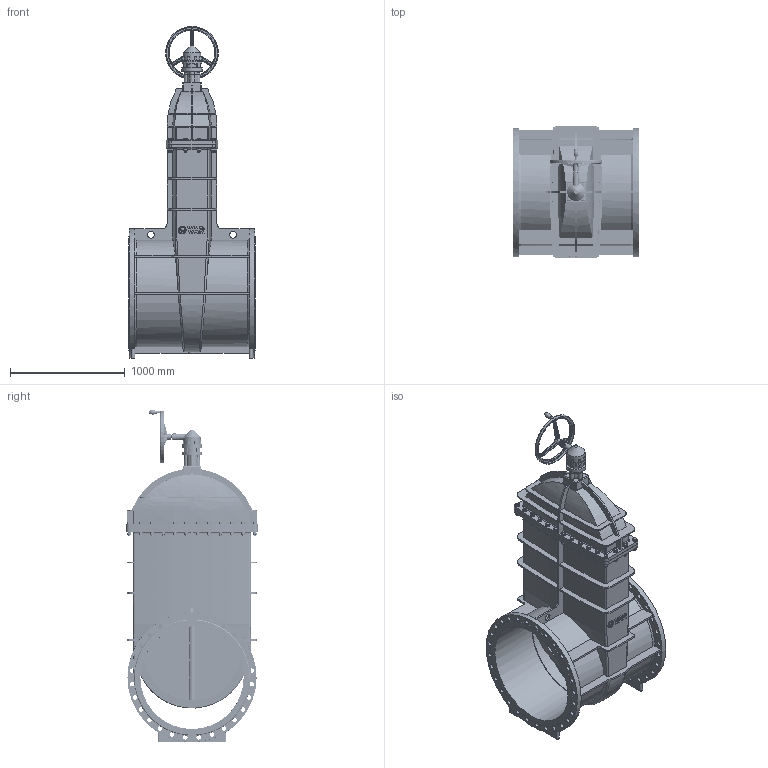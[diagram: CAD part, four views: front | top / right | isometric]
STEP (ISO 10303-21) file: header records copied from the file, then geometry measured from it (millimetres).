
FILE_DESCRIPTION(('STEP AP242'), '1');
FILE_NAME('青溻桄赅', '', ('UNSPECIFIED'), ('UNSPECIFIED'), 'C3D Converter', 'C3D Toolkit', '');
FILE_SCHEMA(('AP242_MANAGED_MODEL_BASED_3D_ENGINEERING_MIM_LF { 1 0 10303 442 1 1 4 }'));
Length unit declared in the file: millimetre
Assembly tree (195 placements, depth 2):
  (unnamed)
    (unnamed)
    (unnamed)
    (unnamed)
    (unnamed)  x2
    (unnamed)
    (unnamed)
    (unnamed)
    (unnamed)
    (unnamed)
    (unnamed)  x28
    (unnamed)  x56
    (unnamed)  x56
    (unnamed)  x28
    (unnamed)
    (unnamed)  x12
    (unnamed)  x4
Bounding box: 1100 x 1145.5 x 2894.32 mm (x, y, z)
Volume: 202650682.8 mm3; surface area: 23610834.4 mm2
Topology: 200 solids, 201 shells, 3457 faces, 8150 edges, 5130 vertices
Faces by surface type: plane 1925, cylinder 773, cone 408, extrusion 187, torus 86, bspline 78
Full cylindrical faces by diameter (mm): 5 x12, 6 x39, 10 x16, 12 x20, 17.294 x28, 18 x8, 20 x33, 22 x140, 30 x28, 34 x65, 40 x57, 50 x1, 60 x4, 65 x5, 67.745 x1, 68 x1, 135.596 x2, 155.031 x1, 174.467 x3, 400 x1, 410 x1, 450 x1, 460 x1, 853.5 x2, 900 x4, 955.8 x4, 993 x1, 1125 x2
Entity records: 82690 total; most frequent: CARTESIAN_POINT 36327, ORIENTED_EDGE 8010, DIRECTION 7542, EDGE_CURVE 4010, VERTEX_POINT 2790, AXIS2_PLACEMENT_3D 2733, EDGE_LOOP 2228, VECTOR 2076
